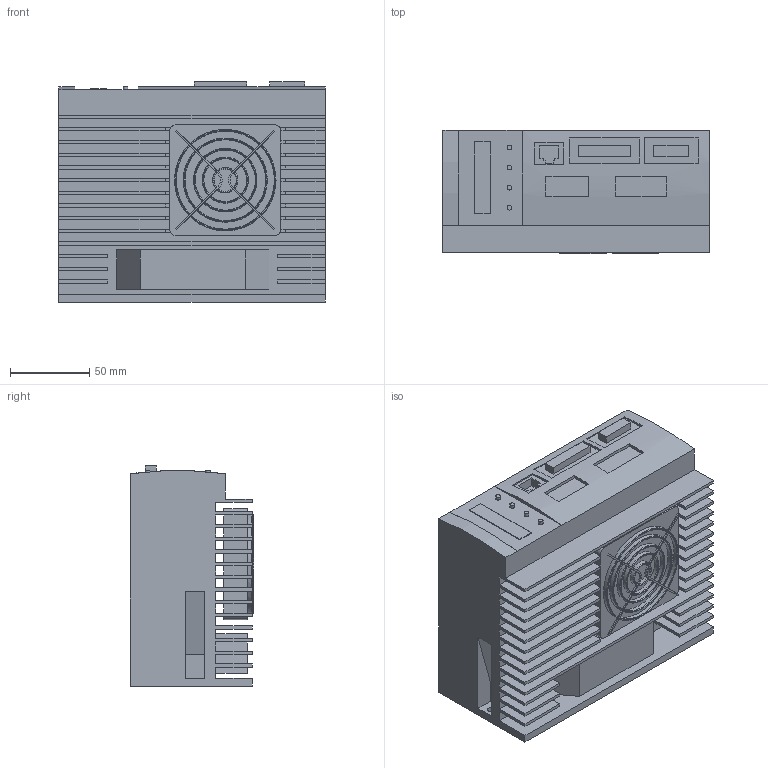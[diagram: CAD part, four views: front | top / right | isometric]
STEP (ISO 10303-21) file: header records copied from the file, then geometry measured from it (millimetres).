
FILE_DESCRIPTION(('STEP AP214'), '1');
FILE_NAME('Äðàéâåð QS7AA020M', '', ('UNSPECIFIED'), ('UNSPECIFIED'), 'C3D Converter', 'C3D Toolkit', '');
FILE_SCHEMA(('AUTOMOTIVE_DESIGN { 1 0 10303 214 3 1 1}'));
Length unit declared in the file: millimetre
Bounding box: 168 x 78 x 139 mm (x, y, z)
Volume: 1434472.9 mm3; surface area: 179266.7 mm2
Topology: 1 solids, 1 shells, 459 faces, 1343 edges, 854 vertices
Faces by surface type: plane 273, bspline 80, cylinder 66, torus 40
Full cylindrical faces by diameter (mm): 3 x4, 5 x1, 14 x1, 16 x1, 27 x1, 29 x1, 38 x1, 40 x1, 51 x1, 53 x1, 62 x1, 64 x1
Entity records: 28466 total; most frequent: CARTESIAN_POINT 13356, ORIENTED_EDGE 2656, DIRECTION 1968, EDGE_CURVE 1328, VERTEX_POINT 854, LINE 742, VECTOR 742, AXIS2_PLACEMENT_3D 613
